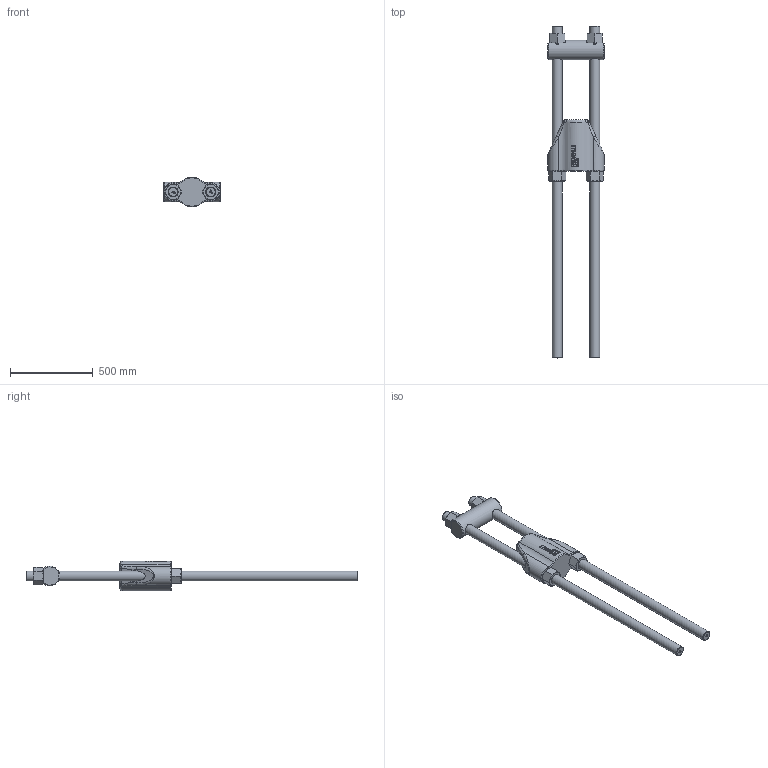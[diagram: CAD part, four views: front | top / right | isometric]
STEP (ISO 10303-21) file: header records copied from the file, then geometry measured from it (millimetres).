
FILE_DESCRIPTION(/* description */ (''),/* implementation_level */ '2;1');
FILE_NAME(/* name */ 'D:\Clienti\Redaelli (inventor)\BRC\STEP\Arrangemet\BRC056 72 111 0.stp',/* time_stamp */ '2021-05-08T08:28:41+02:00',/* author */ ('fabri'),/* organization */ (''),/* preprocessor_version */ 'ST-DEVELOPER v16.13',/* originating_system */ 'Autodesk Inventor 2018',/* authorisation */ '');
FILE_SCHEMA (('AUTOMOTIVE_DESIGN { 1 0 10303 214 3 1 1 }'));
Length unit declared in the file: millimetre
Products named in the file (5): BRC020 72 111 0; BRC020 71 112 0; BRC020 71 114 0_ROD; BRC020 71 113 0; BRC020 71 114 0_NUT
Assembly tree (8 placements, depth 2):
  BRC020 72 111 0
    BRC020 71 112 0
    BRC020 71 114 0_ROD  x2
    BRC020 71 113 0
    BRC020 71 114 0_NUT  x4
Bounding box: 338 x 2000 x 179.61 mm (x, y, z)
Volume: 25049319.2 mm3; surface area: 1444642.8 mm2
Topology: 8 solids, 8 shells, 1610 faces, 4290 edges, 2830 vertices
Faces by surface type: bspline 759, plane 717, cone 62, cylinder 48, torus 20, sphere 4
Full cylindrical faces by diameter (mm): 55.67 x4, 60 x2, 63 x4, 119 x1
Entity records: 31761 total; most frequent: CARTESIAN_POINT 12626, ORIENTED_EDGE 4618, DIRECTION 2617, EDGE_CURVE 2309, VERTEX_POINT 1530, LINE 1233, VECTOR 1233, EDGE_LOOP 965
